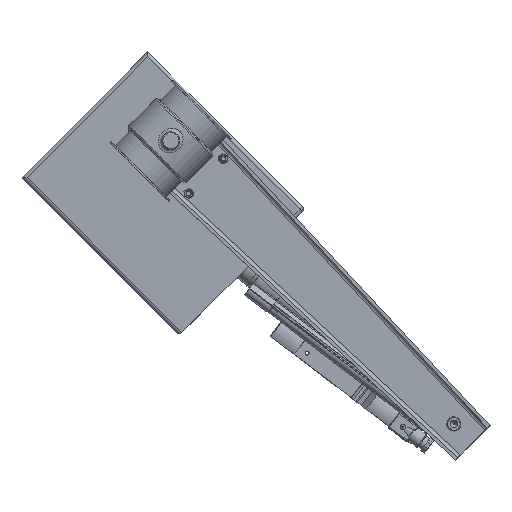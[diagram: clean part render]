
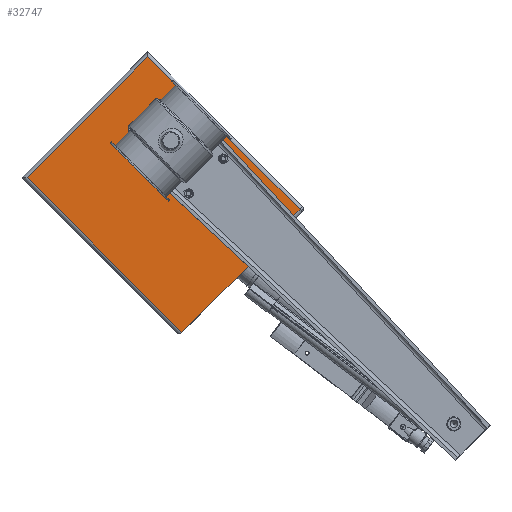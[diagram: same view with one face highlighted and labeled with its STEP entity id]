
A CAD part, top view. The second image highlights one B-rep face of the part: STEP entity #32747.
In plain terms, the highlighted planar face has unit normal (0, 0, 1) as drawn and (0, 0, -1) by its records, which use the part's own axes.
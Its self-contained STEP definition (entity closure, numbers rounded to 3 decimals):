
#32205=CARTESIAN_POINT('',(-250.0,4.,0.0));
#32206=VERTEX_POINT('',#32205);
#32214=CARTESIAN_POINT('',(-4.,4.,0.0));
#32215=VERTEX_POINT('',#32214);
#32216=CARTESIAN_POINT('',(-250.0,4.,0.0));
#32217=DIRECTION('',(1.0,0.0,0.0));
#32218=VECTOR('',#32217,246.0);
#32219=LINE('',#32216,#32218);
#32220=EDGE_CURVE('',#32206,#32215,#32219,.T.);
#32283=CARTESIAN_POINT('',(-246.,196.,0.0));
#32284=VERTEX_POINT('',#32283);
#32307=CARTESIAN_POINT('',(-4.,196.,0.0));
#32308=VERTEX_POINT('',#32307);
#32309=CARTESIAN_POINT('',(-4.,196.0,0.0));
#32310=DIRECTION('',(-1.0,0.0,0.0));
#32311=VECTOR('',#32310,242.0);
#32312=LINE('',#32309,#32311);
#32313=EDGE_CURVE('',#32308,#32284,#32312,.T.);
#32339=CARTESIAN_POINT('',(-246.0,160.,0.0));
#32340=VERTEX_POINT('',#32339);
#32357=CARTESIAN_POINT('',(-246.,196.,0.0));
#32358=DIRECTION('',(0.0,-1.0,0.0));
#32359=VECTOR('',#32358,36.0);
#32360=LINE('',#32357,#32359);
#32361=EDGE_CURVE('',#32284,#32340,#32360,.T.);
#32400=CARTESIAN_POINT('',(-4.,4.0,0.0));
#32401=DIRECTION('',(0.0,1.0,0.0));
#32402=VECTOR('',#32401,192.);
#32403=LINE('',#32400,#32402);
#32404=EDGE_CURVE('',#32215,#32308,#32403,.T.);
#32595=CARTESIAN_POINT('',(-140.0,160.0,0.0));
#32596=VERTEX_POINT('',#32595);
#32597=CARTESIAN_POINT('',(-140.0,160.0,0.0));
#32598=DIRECTION('',(-1.0,0.0,0.0));
#32599=VECTOR('',#32598,106.0);
#32600=LINE('',#32597,#32599);
#32601=EDGE_CURVE('',#32596,#32340,#32600,.T.);
#32643=CARTESIAN_POINT('',(-125.0,100.,0.0));
#32644=DIRECTION('',(0.0,0.0,1.0));
#32645=DIRECTION('',(1.0,0.0,0.0));
#32646=AXIS2_PLACEMENT_3D('',#32643,#32644,#32645);
#32647=PLANE('',#32646);
#32648=ORIENTED_EDGE('',*,*,#32361,.F.);
#32649=ORIENTED_EDGE('',*,*,#32313,.F.);
#32650=ORIENTED_EDGE('',*,*,#32404,.F.);
#32651=ORIENTED_EDGE('',*,*,#32220,.F.);
#32652=CARTESIAN_POINT('',(-250.0,135.,0.0));
#32653=VERTEX_POINT('',#32652);
#32654=CARTESIAN_POINT('',(-250.0,4.,0.0));
#32655=DIRECTION('',(0.0,1.0,0.0));
#32656=VECTOR('',#32655,131.);
#32657=LINE('',#32654,#32656);
#32658=EDGE_CURVE('',#32206,#32653,#32657,.T.);
#32659=ORIENTED_EDGE('',*,*,#32658,.T.);
#32660=CARTESIAN_POINT('',(-140.0,135.,0.0));
#32661=VERTEX_POINT('',#32660);
#32662=CARTESIAN_POINT('',(-250.0,135.,0.0));
#32663=DIRECTION('',(1.0,0.0,0.0));
#32664=VECTOR('',#32663,110.0);
#32665=LINE('',#32662,#32664);
#32666=EDGE_CURVE('',#32653,#32661,#32665,.T.);
#32667=ORIENTED_EDGE('',*,*,#32666,.T.);
#32668=CARTESIAN_POINT('',(-110.0,105.0,0.0));
#32669=VERTEX_POINT('',#32668);
#32670=CARTESIAN_POINT('',(-140.0,135.,0.0));
#32671=DIRECTION('',(0.707,-0.707,0.0));
#32672=VECTOR('',#32671,42.426);
#32673=LINE('',#32670,#32672);
#32674=EDGE_CURVE('',#32661,#32669,#32673,.T.);
#32675=ORIENTED_EDGE('',*,*,#32674,.T.);
#32676=CARTESIAN_POINT('',(-65.0,105.0,0.0));
#32677=VERTEX_POINT('',#32676);
#32678=CARTESIAN_POINT('',(-110.0,105.0,0.0));
#32679=DIRECTION('',(1.0,0.0,0.0));
#32680=VECTOR('',#32679,45.0);
#32681=LINE('',#32678,#32680);
#32682=EDGE_CURVE('',#32669,#32677,#32681,.T.);
#32683=ORIENTED_EDGE('',*,*,#32682,.T.);
#32684=CARTESIAN_POINT('',(-45.0,125.,0.0));
#32685=VERTEX_POINT('',#32684);
#32686=CARTESIAN_POINT('',(-65.,105.0,0.0));
#32687=DIRECTION('',(0.707,0.707,0.0));
#32688=VECTOR('',#32687,28.284);
#32689=LINE('',#32686,#32688);
#32690=EDGE_CURVE('',#32677,#32685,#32689,.T.);
#32691=ORIENTED_EDGE('',*,*,#32690,.T.);
#32692=CARTESIAN_POINT('',(-45.,170.,0.0));
#32693=VERTEX_POINT('',#32692);
#32694=CARTESIAN_POINT('',(-45.0,125.,0.0));
#32695=DIRECTION('',(0.0,1.0,0.0));
#32696=VECTOR('',#32695,45.);
#32697=LINE('',#32694,#32696);
#32698=EDGE_CURVE('',#32685,#32693,#32697,.T.);
#32699=ORIENTED_EDGE('',*,*,#32698,.T.);
#32700=CARTESIAN_POINT('',(-65.,190.,0.0));
#32701=VERTEX_POINT('',#32700);
#32702=CARTESIAN_POINT('',(-45.0,170.,0.0));
#32703=DIRECTION('',(-0.707,0.707,0.0));
#32704=VECTOR('',#32703,28.284);
#32705=LINE('',#32702,#32704);
#32706=EDGE_CURVE('',#32693,#32701,#32705,.T.);
#32707=ORIENTED_EDGE('',*,*,#32706,.T.);
#32708=CARTESIAN_POINT('',(-110.,190.,0.0));
#32709=VERTEX_POINT('',#32708);
#32710=CARTESIAN_POINT('',(-65.,190.,0.0));
#32711=DIRECTION('',(-1.0,0.0,0.0));
#32712=VECTOR('',#32711,45.0);
#32713=LINE('',#32710,#32712);
#32714=EDGE_CURVE('',#32701,#32709,#32713,.T.);
#32715=ORIENTED_EDGE('',*,*,#32714,.T.);
#32716=CARTESIAN_POINT('',(-110.,190.,0.0));
#32717=DIRECTION('',(-0.707,-0.707,0.0));
#32718=VECTOR('',#32717,42.426);
#32719=LINE('',#32716,#32718);
#32720=EDGE_CURVE('',#32709,#32596,#32719,.T.);
#32721=ORIENTED_EDGE('',*,*,#32720,.T.);
#32722=ORIENTED_EDGE('',*,*,#32601,.T.);
#32723=EDGE_LOOP('',(#32648,#32649,#32650,#32651,#32659,#32667,#32675,#32683,#32691,#32699,#32707,#32715,#32721,#32722));
#32724=FACE_OUTER_BOUND('',#32723,.T.);
#32725=CARTESIAN_POINT('',(-148.0,120.,0.0));
#32726=VERTEX_POINT('',#32725);
#32727=CARTESIAN_POINT('',(-145.,120.,0.0));
#32728=DIRECTION('',(0.0,0.0,1.0));
#32729=DIRECTION('',(1.0,0.0,0.0));
#32730=AXIS2_PLACEMENT_3D('',#32727,#32728,#32729);
#32731=CIRCLE('',#32730,3.);
#32732=EDGE_CURVE('',#32726,#32726,#32731,.T.);
#32733=ORIENTED_EDGE('',*,*,#32732,.T.);
#32734=EDGE_LOOP('',(#32733));
#32735=FACE_BOUND('',#32734,.T.);
#32736=CARTESIAN_POINT('',(-148.,175.0,0.0));
#32737=VERTEX_POINT('',#32736);
#32738=CARTESIAN_POINT('',(-145.,175.0,0.0));
#32739=DIRECTION('',(0.0,0.0,1.0));
#32740=DIRECTION('',(1.0,0.0,0.0));
#32741=AXIS2_PLACEMENT_3D('',#32738,#32739,#32740);
#32742=CIRCLE('',#32741,3.);
#32743=EDGE_CURVE('',#32737,#32737,#32742,.T.);
#32744=ORIENTED_EDGE('',*,*,#32743,.T.);
#32745=EDGE_LOOP('',(#32744));
#32746=FACE_BOUND('',#32745,.T.);
#32747=ADVANCED_FACE('',(#32724,#32735,#32746),#32647,.F.);
